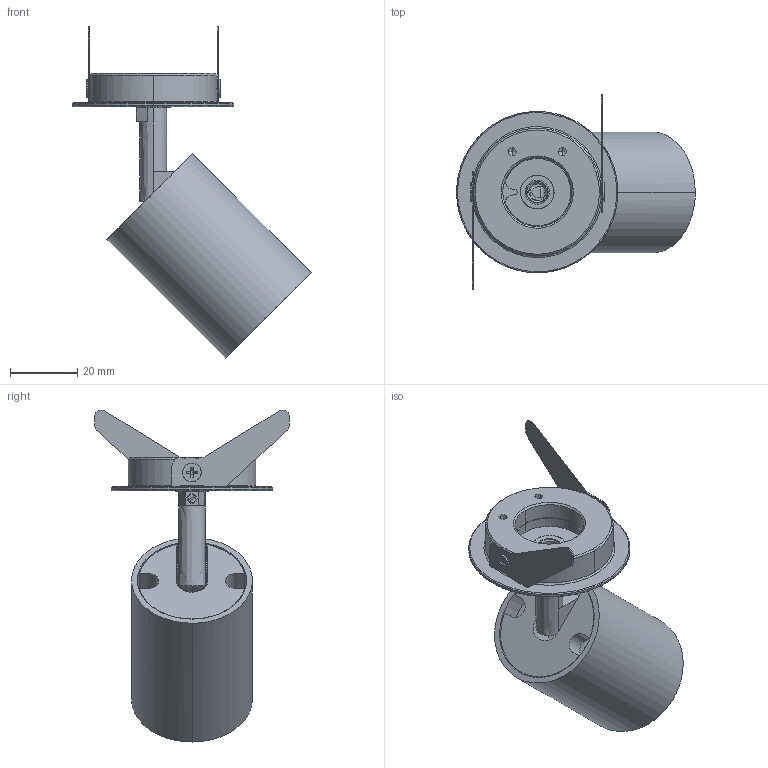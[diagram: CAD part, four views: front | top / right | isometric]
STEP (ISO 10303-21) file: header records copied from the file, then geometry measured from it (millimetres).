
FILE_DESCRIPTION(/* description */ (''),/* implementation_level */ '2;1');
FILE_NAME(/* name */ 'X123__.007',/* time_stamp */ '2024-08-30T12:25:36+02:00',/* author */ (''),/* organization */ (''),/* preprocessor_version */ 'ST-DEVELOPER v16.5',/* originating_system */ '',/* authorisation */ '');
FILE_SCHEMA (('AUTOMOTIVE_DESIGN'));
Length unit declared in the file: millimetre
Products named in the file (1): Document
Bounding box: 71.01 x 58 x 98.83 mm (x, y, z)
Volume: 20051.4 mm3; surface area: 30553.3 mm2
Topology: 18 solids, 23 shells, 568 faces, 1464 edges, 925 vertices
Faces by surface type: bspline 290, plane 278
Entity records: 20866 total; most frequent: CARTESIAN_POINT 12054, ORIENTED_EDGE 2863, EDGE_CURVE 1441, VERTEX_POINT 925, B_SPLINE_CURVE_WITH_KNOTS 837, EDGE_LOOP 624, ADVANCED_FACE 568, FACE_OUTER_BOUND 568
